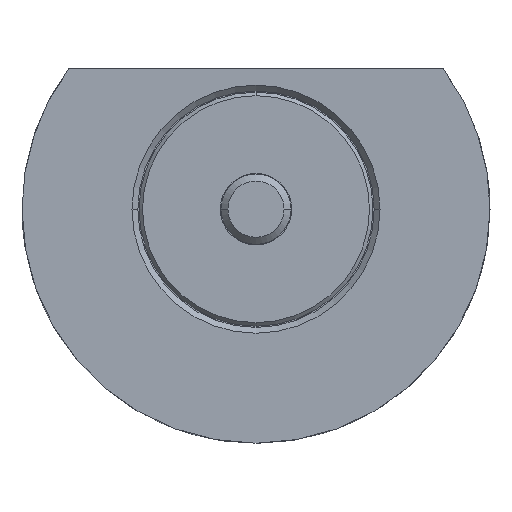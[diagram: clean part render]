
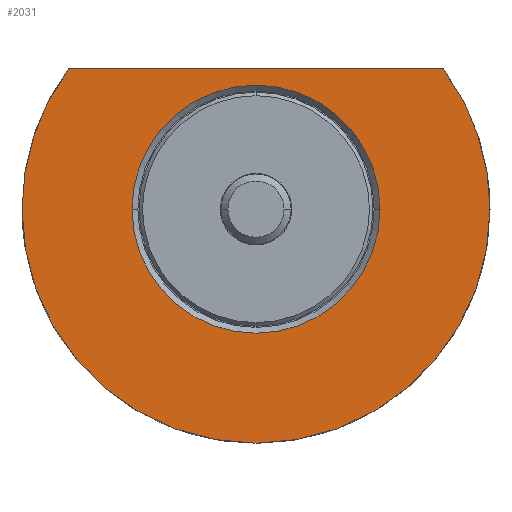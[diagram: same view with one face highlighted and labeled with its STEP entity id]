
A CAD part, front view. The second image highlights one B-rep face of the part: STEP entity #2031.
In plain terms, the highlighted planar face has unit normal (0, -1, 0).
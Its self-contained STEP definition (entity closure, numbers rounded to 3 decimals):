
#24 = ORIENTED_EDGE ( 'NONE', *, *, #2477, .T. ) ;
#29 = DIRECTION ( 'NONE',  ( -1., 0., 0. ) ) ;
#42 = DIRECTION ( 'NONE',  ( 0., 1., 0. ) ) ;
#54 = AXIS2_PLACEMENT_3D ( 'NONE', #1313, #1483, #888 ) ;
#86 = DIRECTION ( 'NONE',  ( -1., 0., 0. ) ) ;
#194 = EDGE_CURVE ( 'NONE', #1694, #1023, #1123, .T. ) ;
#232 = AXIS2_PLACEMENT_3D ( 'NONE', #236, #42, #2094 ) ;
#236 = CARTESIAN_POINT ( 'NONE',  ( 0., -10., 0. ) ) ;
#252 = DIRECTION ( 'NONE',  ( 0., 1., 0. ) ) ;
#282 = EDGE_CURVE ( 'NONE', #1290, #1023, #845, .T. ) ;
#380 = CARTESIAN_POINT ( 'NONE',  ( -20., -10., 0. ) ) ;
#397 = CARTESIAN_POINT ( 'NONE',  ( -10.6, -10., 0. ) ) ;
#415 = VERTEX_POINT ( 'NONE', #397 ) ;
#477 = DIRECTION ( 'NONE',  ( 0., -1., 0. ) ) ;
#501 = CIRCLE ( 'NONE', #2125, 20. ) ;
#544 = VECTOR ( 'NONE', #86, 1000. ) ;
#567 = EDGE_CURVE ( 'NONE', #1694, #2528, #501, .T. ) ;
#587 = AXIS2_PLACEMENT_3D ( 'NONE', #1330, #1769, #2586 ) ;
#602 = EDGE_LOOP ( 'NONE', ( #24, #1032 ) ) ;
#802 = CARTESIAN_POINT ( 'NONE',  ( 16.001, -10., 11.999 ) ) ;
#845 = CIRCLE ( 'NONE', #587, 20. ) ;
#888 = DIRECTION ( 'NONE',  ( -1., 0., 0. ) ) ;
#1023 = VERTEX_POINT ( 'NONE', #1881 ) ;
#1032 = ORIENTED_EDGE ( 'NONE', *, *, #1071, .T. ) ;
#1059 = CARTESIAN_POINT ( 'NONE',  ( 20., -10., 0. ) ) ;
#1071 = EDGE_CURVE ( 'NONE', #415, #1586, #2073, .T. ) ;
#1089 = DIRECTION ( 'NONE',  ( 1., 0., 0. ) ) ;
#1123 = LINE ( 'NONE', #1959, #544 ) ;
#1290 = VERTEX_POINT ( 'NONE', #380 ) ;
#1313 = CARTESIAN_POINT ( 'NONE',  ( 0., -10., 0. ) ) ;
#1330 = CARTESIAN_POINT ( 'NONE',  ( 0., -10., 0. ) ) ;
#1430 = DIRECTION ( 'NONE',  ( 0., 1., 0. ) ) ;
#1468 = CIRCLE ( 'NONE', #54, 20. ) ;
#1483 = DIRECTION ( 'NONE',  ( 0., 1., 0. ) ) ;
#1489 = FACE_OUTER_BOUND ( 'NONE', #2164, .T. ) ;
#1514 = EDGE_CURVE ( 'NONE', #2528, #1290, #1468, .T. ) ;
#1586 = VERTEX_POINT ( 'NONE', #2387 ) ;
#1694 = VERTEX_POINT ( 'NONE', #802 ) ;
#1758 = ORIENTED_EDGE ( 'NONE', *, *, #567, .F. ) ;
#1760 = ORIENTED_EDGE ( 'NONE', *, *, #282, .F. ) ;
#1769 = DIRECTION ( 'NONE',  ( 0., 1., 0. ) ) ;
#1881 = CARTESIAN_POINT ( 'NONE',  ( -16.001, -10., 11.999 ) ) ;
#1883 = CARTESIAN_POINT ( 'NONE',  ( -10.6, -10., 0. ) ) ;
#1894 = FACE_BOUND ( 'NONE', #602, .T. ) ;
#1959 = CARTESIAN_POINT ( 'NONE',  ( -10.6, -10., 11.999 ) ) ;
#2031 = ADVANCED_FACE ( 'NONE', ( #1894, #1489 ), #2307, .T. ) ;
#2036 = CIRCLE ( 'NONE', #232, 10.6 ) ;
#2073 = CIRCLE ( 'NONE', #2402, 10.6 ) ;
#2094 = DIRECTION ( 'NONE',  ( -1., 0., 0. ) ) ;
#2096 = CARTESIAN_POINT ( 'NONE',  ( 0., -10., 0. ) ) ;
#2125 = AXIS2_PLACEMENT_3D ( 'NONE', #2438, #1430, #2248 ) ;
#2138 = ORIENTED_EDGE ( 'NONE', *, *, #194, .T. ) ;
#2150 = ORIENTED_EDGE ( 'NONE', *, *, #1514, .F. ) ;
#2164 = EDGE_LOOP ( 'NONE', ( #1758, #2138, #1760, #2150 ) ) ;
#2248 = DIRECTION ( 'NONE',  ( -1., 0., 0. ) ) ;
#2307 = PLANE ( 'NONE',  #2500 ) ;
#2387 = CARTESIAN_POINT ( 'NONE',  ( 10.6, -10., 0. ) ) ;
#2402 = AXIS2_PLACEMENT_3D ( 'NONE', #2096, #252, #29 ) ;
#2438 = CARTESIAN_POINT ( 'NONE',  ( 0., -10., 0. ) ) ;
#2477 = EDGE_CURVE ( 'NONE', #1586, #415, #2036, .T. ) ;
#2500 = AXIS2_PLACEMENT_3D ( 'NONE', #1883, #477, #1089 ) ;
#2528 = VERTEX_POINT ( 'NONE', #1059 ) ;
#2586 = DIRECTION ( 'NONE',  ( -1., 0., 0. ) ) ;
